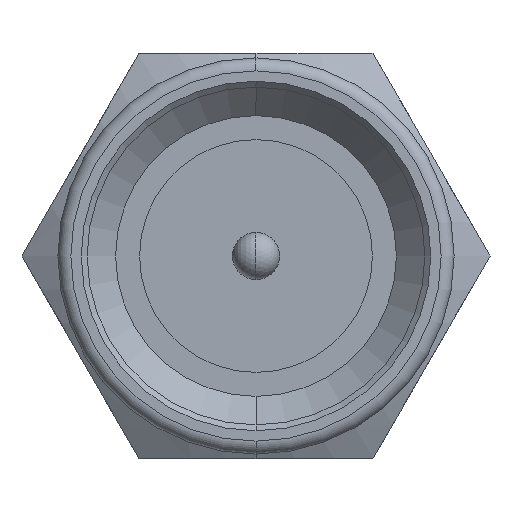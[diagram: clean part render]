
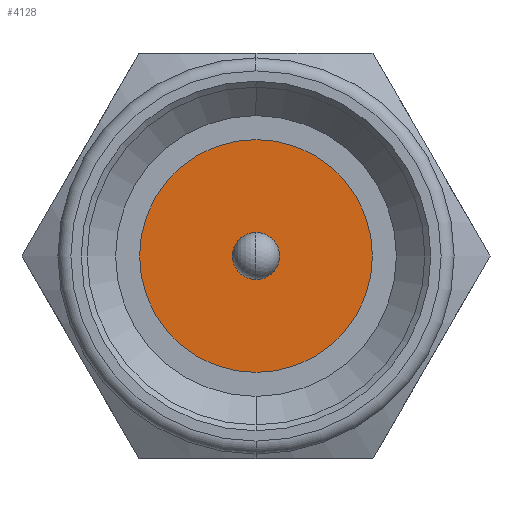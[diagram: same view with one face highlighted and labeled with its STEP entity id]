
A CAD part, left-side view. The second image highlights one B-rep face of the part: STEP entity #4128.
In plain terms, the highlighted planar face has unit normal (-1, 0, 0).
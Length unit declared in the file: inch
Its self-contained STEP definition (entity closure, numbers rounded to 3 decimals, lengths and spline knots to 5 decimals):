
#156 = CIRCLE ( 'NONE', #1175, 0.01812 ) ;
#163 = AXIS2_PLACEMENT_3D ( 'NONE', #556, #3462, #966 ) ;
#209 = AXIS2_PLACEMENT_3D ( 'NONE', #2384, #5216, #2807 ) ;
#235 = VERTEX_POINT ( 'NONE', #3290 ) ;
#271 = AXIS2_PLACEMENT_3D ( 'NONE', #3509, #662, #1444 ) ;
#556 = CARTESIAN_POINT ( 'NONE',  ( 0., 0., -0.0575 ) ) ;
#662 = DIRECTION ( 'NONE',  ( -1., 0., 0. ) ) ;
#664 = EDGE_CURVE ( 'NONE', #3974, #2691, #156, .T. ) ;
#770 = CIRCLE ( 'NONE', #2269, 0.08963 ) ;
#881 = EDGE_LOOP ( 'NONE', ( #4621, #4877 ) ) ;
#966 = DIRECTION ( 'NONE',  ( 0., 0., -1. ) ) ;
#1113 = CARTESIAN_POINT ( 'NONE',  ( 0., 0., 0. ) ) ;
#1175 = AXIS2_PLACEMENT_3D ( 'NONE', #1113, #4016, #1543 ) ;
#1330 = EDGE_CURVE ( 'NONE', #2691, #3974, #4633, .T. ) ;
#1400 = CARTESIAN_POINT ( 'NONE',  ( 0., 0., -0.08963 ) ) ;
#1444 = DIRECTION ( 'NONE',  ( 0., 0., 1. ) ) ;
#1543 = DIRECTION ( 'NONE',  ( 0., 0., -1. ) ) ;
#1963 = CARTESIAN_POINT ( 'NONE',  ( 0., 0., -0.01812 ) ) ;
#2157 = ORIENTED_EDGE ( 'NONE', *, *, #664, .F. ) ;
#2245 = DIRECTION ( 'NONE',  ( -1., 0., 0. ) ) ;
#2269 = AXIS2_PLACEMENT_3D ( 'NONE', #4682, #2245, #5087 ) ;
#2334 = FACE_BOUND ( 'NONE', #3897, .T. ) ;
#2384 = CARTESIAN_POINT ( 'NONE',  ( 0., 0., 0. ) ) ;
#2691 = VERTEX_POINT ( 'NONE', #2937 ) ;
#2807 = DIRECTION ( 'NONE',  ( 0., 0., -1. ) ) ;
#2937 = CARTESIAN_POINT ( 'NONE',  ( 0., 0., 0.01812 ) ) ;
#2991 = EDGE_CURVE ( 'NONE', #4161, #235, #4981, .T. ) ;
#3290 = CARTESIAN_POINT ( 'NONE',  ( 0., 0., 0.08963 ) ) ;
#3446 = PLANE ( 'NONE',  #163 ) ;
#3462 = DIRECTION ( 'NONE',  ( 1., 0., 0. ) ) ;
#3509 = CARTESIAN_POINT ( 'NONE',  ( 0., 0., 0. ) ) ;
#3897 = EDGE_LOOP ( 'NONE', ( #2157, #4603 ) ) ;
#3974 = VERTEX_POINT ( 'NONE', #1963 ) ;
#4016 = DIRECTION ( 'NONE',  ( -1., 0., 0. ) ) ;
#4128 = ADVANCED_FACE ( 'NONE', ( #2334, #4523 ), #3446, .F. ) ;
#4161 = VERTEX_POINT ( 'NONE', #1400 ) ;
#4523 = FACE_OUTER_BOUND ( 'NONE', #881, .T. ) ;
#4603 = ORIENTED_EDGE ( 'NONE', *, *, #1330, .F. ) ;
#4621 = ORIENTED_EDGE ( 'NONE', *, *, #5161, .T. ) ;
#4633 = CIRCLE ( 'NONE', #209, 0.01812 ) ;
#4682 = CARTESIAN_POINT ( 'NONE',  ( 0., 0., 0. ) ) ;
#4877 = ORIENTED_EDGE ( 'NONE', *, *, #2991, .T. ) ;
#4981 = CIRCLE ( 'NONE', #271, 0.08963 ) ;
#5087 = DIRECTION ( 'NONE',  ( 0., 0., 1. ) ) ;
#5161 = EDGE_CURVE ( 'NONE', #235, #4161, #770, .T. ) ;
#5216 = DIRECTION ( 'NONE',  ( -1., 0., 0. ) ) ;
